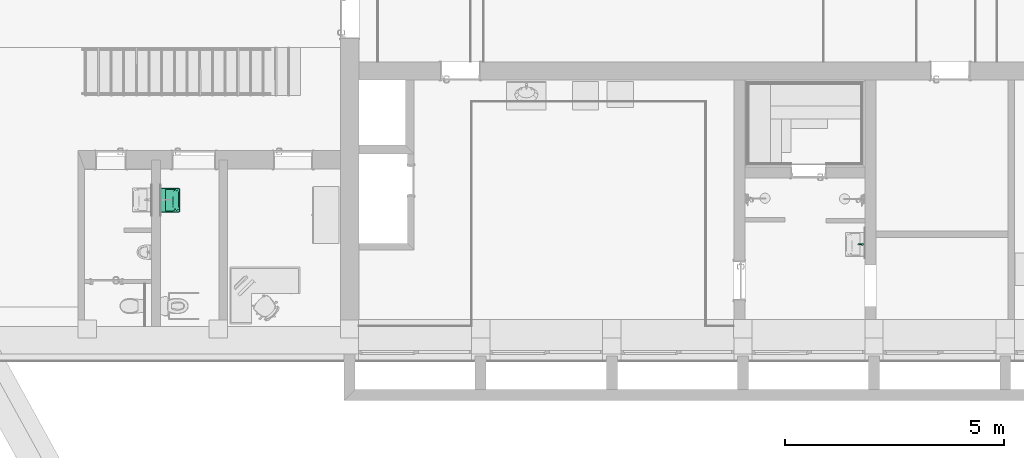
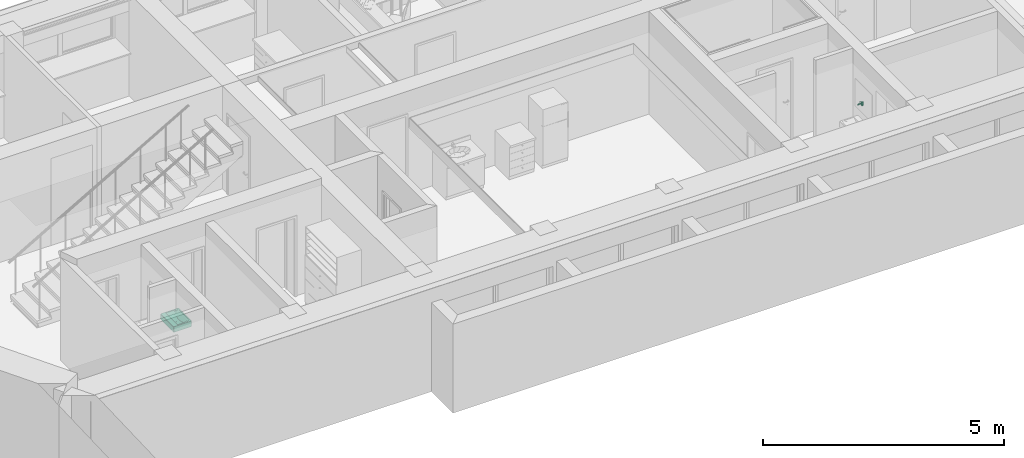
# One storey, part 80 of 127: 2 flow terminals.
"""IFC2X3 building model written with IfcOpenShell, lengths in millimetres."""

from ifc_helpers import new_model, entity, si_unit, converted_unit, derived_unit, money_unit, direction, frame, origin_with_axes, place, context, subcontext, project, spatial, open_shell, faceted_brep, surface_model, source, transform, mapped, type_object, element, save


model = new_model("IFC2X3")

# Units and contexts
model_context = context("Model", 3, precision=1e-05, world=origin_with_axes(), true_north=direction((0.0, 1.0)))
body_context = subcontext(model_context, "Body", "Model", "MODEL_VIEW")
ifc_project = project(units=[si_unit("LENGTHUNIT", "METRE", prefix="MILLI"), si_unit("AREAUNIT", "SQUARE_METRE"), si_unit("VOLUMEUNIT", "CUBIC_METRE"), converted_unit("PLANEANGLEUNIT", "DEGREE", entity("IfcPlaneAngleMeasure", 0.0174532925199), si_unit("PLANEANGLEUNIT", "RADIAN"), dimensions=[0, 0, 0, 0, 0, 0, 0]), si_unit("SOLIDANGLEUNIT", "STERADIAN"), money_unit("EUR"), converted_unit("TIMEUNIT", "Year", entity("IfcTimeMeasure", 31556926.0), si_unit("TIMEUNIT", "SECOND"), dimensions=[0, 0, 1, 0, 0, 0, 0]), si_unit("MASSUNIT", "GRAM", prefix="KILO"), si_unit("THERMODYNAMICTEMPERATUREUNIT", "DEGREE_CELSIUS"), si_unit("LUMINOUSINTENSITYUNIT", "LUMEN"), si_unit("ENERGYUNIT", "JOULE", prefix="MEGA"), derived_unit("THERMALCONDUCTANCEUNIT", [(si_unit("POWERUNIT", "WATT"), 1), (si_unit("LENGTHUNIT", "METRE"), -1), (si_unit("THERMODYNAMICTEMPERATUREUNIT", "KELVIN"), -1)]), derived_unit("SPECIFICHEATCAPACITYUNIT", [(si_unit("ENERGYUNIT", "JOULE"), 1), (si_unit("MASSUNIT", "GRAM", prefix="KILO"), -1), (si_unit("THERMODYNAMICTEMPERATUREUNIT", "KELVIN"), -1)]), derived_unit("MASSDENSITYUNIT", [(si_unit("MASSUNIT", "GRAM", prefix="KILO"), 1), (si_unit("VOLUMEUNIT", "CUBIC_METRE"), -1)])], contexts=[model_context])

# Site, building, storey
site_placement = place(None, origin_with_axes())
site = spatial("IfcSite", under=ifc_project, at=site_placement, Name="Site", CompositionType="ELEMENT")
building_placement = place(site_placement, origin_with_axes())
building = spatial("IfcBuilding", under=site, at=building_placement, Name="Building", CompositionType="ELEMENT")
storey_placement = place(building_placement, origin_with_axes())
storey = spatial("IfcBuildingStorey", under=building, at=storey_placement, Name="1 KORRUS", CompositionType="ELEMENT", Elevation=0.0)

# Flow terminals
sanitary_terminal_type_1 = type_object("IfcSanitaryTerminalType", Name="Tap 22", PredefinedType="NOTDEFINED")
shared_shape_1 = source(origin_with_axes(), body_context, "Body", "Brep", [
    faceted_brep([(12.5, 21.6506350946, 1000.0), (0.0, 25.0, 1000.0), (0.0, 21.2019230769, 1075.96153846), (10.5873227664, 18.3377809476, 1076.50708934), (21.6506350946, 12.5, 1000.0), (25.0, 0.0, 1000.0), (21.6506350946, -12.5, 1000.0), (12.5, -21.6506350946, 1000.0), (0.0, -25.0, 1000.0), (-12.5, -21.6506350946, 1000.0), (-21.6506350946, -12.5, 1000.0), (-25.0, 0.0, 1000.0), (-21.6506350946, 12.5, 1000.0), (-12.5, 21.6506350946, 1000.0), (-10.5873227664, 18.3377809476, 1076.50708934), (-18.2735503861, 10.5502392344, 1077.99043062), (-21.0, 0.0, 1080.0), (-18.1003413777, -10.4502369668, 1081.99052133), (-10.4141059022, -18.037760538, 1083.43576391), (0.0, -20.8018867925, 1083.96226415), (10.4141059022, -18.037760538, 1083.43576391), (18.1003413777, -10.4502369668, 1081.99052133), (21.0, 0.0, 1080.0), (18.2735503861, 10.5502392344, 1077.99043062)], [[[0, 1, 2, 3]], [[0, 4, 5, 6, 7, 8, 9, 10, 11, 12, 13, 1]], [[1, 13, 14, 2]], [[3, 2, 14, 15, 16, 17, 18, 19, 20, 21, 22, 23]], [[4, 0, 3, 23]], [[5, 4, 23, 22]], [[6, 5, 22, 21]], [[7, 6, 21, 20]], [[8, 7, 20, 19]], [[9, 8, 19, 18]], [[10, 9, 18, 17]], [[11, 10, 17, 16]], [[12, 11, 16, 15]], [[13, 12, 15, 14]]]),
    faceted_brep([(9.0, -103.0, 1035.0), (7.79422863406, -98.5, 1035.0), (7.79422863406, -98.5, 1045.0), (9.0, -103.0, 1045.0), (7.79422863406, -107.5, 1035.0), (4.5, -110.794228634, 1035.0), (0.0, -112.0, 1035.0), (-4.5, -110.794228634, 1035.0), (-7.79422863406, -107.5, 1035.0), (-9.0, -103.0, 1035.0), (-7.79422863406, -98.5, 1035.0), (-4.5, -95.2057713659, 1035.0), (0.0, -94.0, 1035.0), (4.5, -95.2057713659, 1035.0), (4.5, -95.2057713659, 1045.0), (0.0, -94.0, 1045.0), (-4.5, -95.2057713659, 1045.0), (-7.79422863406, -98.5, 1045.0), (-9.0, -103.0, 1045.0), (-7.79422863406, -107.5, 1045.0), (-4.5, -110.794228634, 1045.0), (0.0, -112.0, 1045.0), (4.5, -110.794228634, 1045.0), (7.79422863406, -107.5, 1045.0)], [[[0, 1, 2, 3]], [[0, 4, 5, 6, 7, 8, 9, 10, 11, 12, 13, 1]], [[1, 13, 14, 2]], [[3, 2, 14, 15, 16, 17, 18, 19, 20, 21, 22, 23]], [[4, 0, 3, 23]], [[5, 4, 23, 22]], [[6, 5, 22, 21]], [[7, 6, 21, 20]], [[8, 7, 20, 19]], [[9, 8, 19, 18]], [[10, 9, 18, 17]], [[11, 10, 17, 16]], [[12, 11, 16, 15]], [[13, 12, 15, 14]]]),
    faceted_brep([(-12.8717176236, 20.2563038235, 1060.0), (-21.727805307, 10.1932053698, 1060.0), (-23.8054, -3.0499, 1060.0), (-10.911990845, -104.388371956, 1060.0), (-9.02887546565, -109.283194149, 1060.0), (-5.09332449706, -112.749726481, 1060.0), (3.62679860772e-05, -113.99996004, 1060.0), (5.09338878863, -112.749692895, 1060.0), (9.02891689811, -109.283134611, 1060.0), (10.912, -104.3883, 1060.0), (23.8053997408, -3.04990202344, 1060.0), (21.7278061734, 10.193203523, 1060.0), (12.8717193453, 20.2563027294, 1060.0), (1.01998896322e-06, 23.999978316, 1060.0), (11.0, 19.0525588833, 1060.0), (19.0525588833, 11.0, 1060.0), (22.0, 0.0, 1060.0), (19.0525588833, -11.0, 1060.0), (11.0, -19.0525588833, 1060.0), (0.0, -22.0, 1060.0), (-11.0, -19.0525588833, 1060.0), (-19.0525588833, -11.0, 1060.0), (-22.0, 0.0, 1060.0), (-19.0525588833, 11.0, 1060.0), (-11.0, 19.0525588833, 1060.0), (0.0, 22.0, 1060.0), (-21.727805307, 10.1932053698, 1045.0), (-12.8717176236, 20.2563038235, 1045.0), (-23.8054, -3.0499, 1045.0), (-10.911990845, -104.388371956, 1045.0), (-9.02887546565, -109.283194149, 1045.0), (-5.09332449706, -112.749726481, 1045.0), (3.62679860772e-05, -113.99996004, 1045.0), (5.09338878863, -112.749692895, 1045.0), (9.02891689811, -109.283134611, 1045.0), (10.912, -104.3883, 1045.0), (23.8053997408, -3.04990202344, 1045.0), (21.7278061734, 10.193203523, 1045.0), (12.8717193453, 20.2563027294, 1045.0), (1.01998896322e-06, 23.999978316, 1045.0), (11.375, 19.7020779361, 1045.0), (19.7020779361, 11.375, 1045.0), (22.75, 0.0, 1045.0), (19.7020779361, -11.375, 1045.0), (11.375, -19.7020779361, 1045.0), (0.0, -22.75, 1045.0), (-11.375, -19.7020779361, 1045.0), (-19.7020779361, -11.375, 1045.0), (-22.75, 0.0, 1045.0), (-19.7020779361, 11.375, 1045.0), (-11.375, 19.7020779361, 1045.0), (0.0, 22.75, 1045.0)], [[[0, 1, 2, 3, 4, 5, 6, 7, 8, 9, 10, 11, 12, 13], [14, 15, 16, 17, 18, 19, 20, 21, 22, 23, 24, 25]], [[26, 1, 0, 27]], [[28, 2, 1, 26]], [[29, 3, 2, 28]], [[30, 4, 3, 29]], [[31, 5, 4, 30]], [[32, 6, 5, 31]], [[33, 7, 6, 32]], [[34, 8, 7, 33]], [[35, 9, 8, 34]], [[36, 10, 9, 35]], [[37, 11, 10, 36]], [[38, 12, 11, 37]], [[39, 13, 12, 38]], [[27, 0, 13, 39]], [[40, 41, 15, 14]], [[41, 42, 16, 15]], [[42, 43, 17, 16]], [[43, 44, 18, 17]], [[44, 45, 19, 18]], [[20, 19, 45, 46]], [[21, 20, 46, 47]], [[22, 21, 47, 48]], [[23, 22, 48, 49]], [[24, 23, 49, 50]], [[50, 51, 25, 24]], [[51, 40, 14, 25]], [[32, 31, 30, 29, 28, 26, 27, 39, 38, 37, 36, 35, 34, 33], [44, 43, 42, 41, 40, 51, 50, 49, 48, 47, 46, 45]]]),
    faceted_brep([(23.893, -1.69256934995, 1080.32239416), (21.2964214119, 10.774718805, 1077.94767261), (21.2964214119, 11.5231672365, 1081.87702687), (23.893, -0.944120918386, 1084.25174843), (20.9459364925, -41.8367022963, 1087.96889568), (17.6631391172, -51.5143665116, 1089.81226029), (10.0614352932, -58.4637460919, 1091.13595164), (-0.000442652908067, -60.9856119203, 1091.61630703), (-10.0622123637, -58.4633294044, 1091.13587227), (-17.6636179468, -51.5136350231, 1089.81212096), (-20.946, -41.8358348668, 1087.96873045), (-23.893020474, -1.69229042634, 1080.32234103), (-21.2962910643, 10.7749674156, 1077.94762525), (-12.4716815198, 20.0911974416, 1076.17310525), (0.000142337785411, 23.5319645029, 1075.51772105), (12.4719245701, 20.0910518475, 1076.17313298), (14.0, -25.540802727, 1084.86491481), (-14.0, -25.540802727, 1084.86491481), (-14.0, -40.3564329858, 1087.68693962), (-12.124355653, -47.2328029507, 1088.99672437), (-7.0, -52.2666551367, 1089.95555336), (0.0, -54.1091729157, 1090.30650913), (7.0, -52.2666551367, 1089.95555336), (12.124355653, -47.2328029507, 1088.99672437), (14.0, -40.3564329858, 1087.68693962), (12.4719245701, 20.8395002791, 1080.10248725), (0.000142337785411, 24.2804129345, 1079.44707531), (-12.4716815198, 20.8396458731, 1080.10245951), (-21.2962910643, 11.5234158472, 1081.87697952), (-23.893020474, -0.943841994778, 1084.2516953), (-20.946, -41.0873864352, 1091.89808472), (-17.6636179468, -50.7651865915, 1093.74147522), (-10.0622123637, -57.7148809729, 1095.06522653), (-0.000442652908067, -60.2371634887, 1095.5456613), (10.0614352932, -57.7152976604, 1095.0653059), (17.6631391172, -50.7659180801, 1093.74161455), (20.9459364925, -41.0882538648, 1091.89824994), (14.0, -24.7923542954, 1088.79426907), (14.0, -39.6079845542, 1091.61629388), (12.124355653, -46.4843545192, 1092.92607864), (7.0, -51.5182067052, 1093.88490763), (0.0, -53.3607244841, 1094.23586339), (-7.0, -51.5182067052, 1093.88490763), (-12.124355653, -46.4843545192, 1092.92607864), (-14.0, -39.6079845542, 1091.61629388), (-14.0, -24.7923542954, 1088.79426907)], [[[0, 1, 2, 3]], [[0, 4, 5, 6, 7, 8, 9, 10, 11, 12, 13, 14, 15, 1], [16, 17, 18, 19, 20, 21, 22, 23, 24]], [[1, 15, 25, 2]], [[3, 2, 25, 26, 27, 28, 29, 30, 31, 32, 33, 34, 35, 36], [37, 38, 39, 40, 41, 42, 43, 44, 45]], [[4, 0, 3, 36]], [[5, 4, 36, 35]], [[6, 5, 35, 34]], [[7, 6, 34, 33]], [[8, 7, 33, 32]], [[9, 8, 32, 31]], [[10, 9, 31, 30]], [[11, 10, 30, 29]], [[12, 11, 29, 28]], [[13, 12, 28, 27]], [[14, 13, 27, 26]], [[15, 14, 26, 25]], [[17, 16, 37, 45]], [[18, 17, 45, 44]], [[19, 18, 44, 43]], [[20, 19, 43, 42]], [[21, 20, 42, 41]], [[22, 21, 41, 40]], [[23, 22, 40, 39]], [[24, 23, 39, 38]], [[16, 24, 38, 37]]]),
])
flow_terminal_1_placement = place(storey_placement, frame((27677.1940647, 61462.9033953, 472.720072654), z_axis=(0.0, 0.0, 1.0), x_axis=(0.0, -1.0, 0.0)))
element("IfcFlowTerminal", 1, at=flow_terminal_1_placement, inside=storey, type_object=sanitary_terminal_type_1, Name="Valamu", context=body_context, shape_type="MappedRepresentation", body=[
    mapped(shared_shape_1, transform((0.0, 0.0, 0.0))),
])
sanitary_terminal_type_2 = type_object("IfcSanitaryTerminalType", Name="Basin 22", PredefinedType="NOTDEFINED")
shared_shape_2 = source(origin_with_axes(), body_context, "Body", "SurfaceModel", [
    faceted_brep([(-260.0, -440.0, 860.0), (-267.5, -437.990381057, 860.0), (-272.990381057, -432.5, 860.0), (-275.0, -425.0, 860.0), (-275.0, -15.0, 860.0), (-272.990381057, -7.5, 860.0), (-267.5, -2.00961894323, 860.0), (-260.0, 0.0, 860.0), (260.0, 0.0, 860.0), (267.5, -2.00961894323, 860.0), (272.990381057, -7.5, 860.0), (275.0, -15.0, 860.0), (275.0, -425.0, 860.0), (272.990381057, -432.5, 860.0), (267.5, -437.990381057, 860.0), (260.0, -440.0, 860.0), (245.0, -410.0, 860.0), (245.0, -110.0, 860.0), (-245.0, -110.0, 860.0), (-245.0, -410.0, 860.0), (-259.999999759, -440.00000039, 995.0), (-267.500000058, -437.990381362, 995.0), (-272.990381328, -432.500000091, 995.0), (-275.000000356, -424.999999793, 995.0), (-275.000000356, -14.9999996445, 995.0), (-272.990381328, -7.50000027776, 995.0), (-267.500000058, -2.00961900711, 995.0), (-259.999999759, 2.02655670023e-08, 995.0), (259.999999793, 2.02655670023e-08, 995.0), (267.500000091, -2.00961900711, 995.0), (272.990381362, -7.50000027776, 995.0), (275.00000039, -14.9999996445, 995.0), (275.00000039, -424.999999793, 995.0), (272.990381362, -432.500000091, 995.0), (267.500000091, -437.990381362, 995.0), (259.999999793, -440.00000039, 995.0), (245.0, -110.0, 999.999999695), (245.0, -410.0, 999.999999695), (-245.0, -110.0, 999.999999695), (-245.0, -410.0, 999.999999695), (-259.977570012, -439.829629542, 996.294095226), (-267.411809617, -437.837631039, 996.294095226), (-272.837631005, -432.411809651, 996.294095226), (-274.829629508, -424.977570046, 996.294095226), (-274.829629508, -15.0224293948, 996.294095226), (-272.837631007, -7.58819072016, 996.294095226), (-267.411809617, -2.16236933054, 996.294095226), (-259.977570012, -0.170370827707, 996.294095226), (259.977570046, -0.170370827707, 996.294095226), (267.411809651, -2.16236933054, 996.294095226), (272.837631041, -7.58819072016, 996.294095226), (274.829629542, -15.0224293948, 996.294095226), (274.829629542, -424.977570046, 996.294095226), (272.837631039, -432.411809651, 996.294095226), (267.411809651, -437.837631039, 996.294095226), (259.977570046, -439.829629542, 996.294095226), (259.34173768, -4.99999712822, 999.999999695), (-259.341737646, -4.99999712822, 999.999999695), (-264.911811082, -6.49249381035, 999.999999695), (-268.507506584, -10.0881893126, 999.999999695), (-270.000003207, -15.6582618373, 999.999999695), (-270.000003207, -424.34173768, 999.999999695), (-268.507506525, -429.911811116, 999.999999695), (-264.911811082, -433.507506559, 999.999999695), (-259.341737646, -435.000003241, 999.999999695), (259.34173768, -435.000003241, 999.999999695), (264.911811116, -433.507506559, 999.999999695), (268.507506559, -429.911811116, 999.999999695), (270.000003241, -424.34173768, 999.999999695), (270.000003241, -15.6582618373, 999.999999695), (268.507506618, -10.0881893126, 999.999999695), (264.911811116, -6.49249381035, 999.999999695), (-259.807199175, -438.535534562, 998.535533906), (-266.741936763, -436.677377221, 998.535533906), (-271.677377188, -431.741936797, 998.535533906), (-273.535534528, -424.807199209, 998.535533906), (-273.535534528, -15.1928002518, 998.535533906), (-271.677377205, -8.2580635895, 998.535533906), (-266.741936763, -3.32262314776, 998.535533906), (-259.807199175, -1.46446580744, 998.535533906), (259.807199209, -1.46446580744, 998.535533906), (266.741936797, -3.32262314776, 998.535533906), (271.677377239, -8.2580635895, 998.535533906), (273.535534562, -15.1928002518, 998.535533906), (273.535534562, -424.807199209, 998.535533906), (271.677377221, -431.741936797, 998.535533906), (266.741936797, -436.677377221, 998.535533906), (259.807199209, -438.535534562, 998.535533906), (259.512108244, -3.70590421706, 999.829629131), (-259.51210821, -3.70590421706, 999.829629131), (-265.581682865, -5.33224184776, 999.829629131), (-269.667758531, -9.41831751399, 999.829629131), (-271.294096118, -15.4878912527, 999.829629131), (-271.294096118, -424.512108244, 999.829629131), (-269.667758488, -430.581682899, 999.829629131), (-265.581682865, -434.667758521, 999.829629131), (-259.51210821, -436.294096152, 999.829629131), (259.512108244, -436.294096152, 999.829629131), (265.581682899, -434.667758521, 999.829629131), (269.667758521, -430.581682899, 999.829629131), (271.294096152, -424.512108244, 999.829629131), (271.294096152, -15.4878912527, 999.829629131), (269.667758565, -9.41831751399, 999.829629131), (265.581682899, -5.33224184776, 999.829629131)], [[[0, 1, 2, 3, 4, 5, 6, 7, 8, 9, 10, 11, 12, 13, 14, 15], [16, 17, 18, 19]], [[1, 0, 20, 21]], [[2, 1, 21, 22]], [[3, 2, 22, 23]], [[4, 3, 23, 24]], [[5, 4, 24, 25]], [[6, 5, 25, 26]], [[7, 6, 26, 27]], [[8, 7, 27, 28]], [[9, 8, 28, 29]], [[10, 9, 29, 30]], [[11, 10, 30, 31]], [[12, 11, 31, 32]], [[13, 12, 32, 33]], [[14, 13, 33, 34]], [[15, 14, 34, 35]], [[0, 15, 35, 20]], [[36, 17, 16, 37]], [[38, 18, 17, 36]], [[39, 19, 18, 38]], [[37, 16, 19, 39]], [[21, 20, 40, 41]], [[22, 21, 41, 42]], [[23, 22, 42, 43]], [[24, 23, 43, 44]], [[25, 24, 44, 45]], [[26, 25, 45, 46]], [[27, 26, 46, 47]], [[28, 27, 47, 48]], [[29, 28, 48, 49]], [[30, 29, 49, 50]], [[31, 30, 50, 51]], [[32, 31, 51, 52]], [[33, 32, 52, 53]], [[34, 33, 53, 54]], [[35, 34, 54, 55]], [[20, 35, 55, 40]], [[56, 57, 58, 59, 60, 61, 62, 63, 64, 65, 66, 67, 68, 69, 70, 71], [37, 39, 38, 36]], [[41, 40, 72, 73]], [[42, 41, 73, 74]], [[43, 42, 74, 75]], [[44, 43, 75, 76]], [[45, 44, 76, 77]], [[46, 45, 77, 78]], [[47, 46, 78, 79]], [[48, 47, 79, 80]], [[49, 48, 80, 81]], [[50, 49, 81, 82]], [[51, 50, 82, 83]], [[52, 51, 83, 84]], [[53, 52, 84, 85]], [[54, 53, 85, 86]], [[55, 54, 86, 87]], [[40, 55, 87, 72]], [[88, 89, 57, 56]], [[89, 90, 58, 57]], [[90, 91, 59, 58]], [[91, 92, 60, 59]], [[92, 93, 61, 60]], [[93, 94, 62, 61]], [[94, 95, 63, 62]], [[95, 96, 64, 63]], [[96, 97, 65, 64]], [[97, 98, 66, 65]], [[98, 99, 67, 66]], [[99, 100, 68, 67]], [[100, 101, 69, 68]], [[101, 102, 70, 69]], [[102, 103, 71, 70]], [[103, 88, 56, 71]], [[73, 72, 96, 95]], [[74, 73, 95, 94]], [[75, 74, 94, 93]], [[76, 75, 93, 92]], [[77, 76, 92, 91]], [[78, 77, 91, 90]], [[79, 78, 90, 89]], [[80, 79, 89, 88]], [[81, 80, 88, 103]], [[82, 81, 103, 102]], [[83, 82, 102, 101]], [[84, 83, 101, 100]], [[85, 84, 100, 99]], [[86, 85, 99, 98]], [[87, 86, 98, 97]], [[72, 87, 97, 96]]]),
    faceted_brep([(245.0, -410.0, 860.0), (-245.0, -410.0, 860.0), (-245.0, -110.0, 860.0), (245.0, -110.0, 860.0), (-12.5, -221.641635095, 860.0), (0.0, -224.991, 860.0), (12.5, -221.641635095, 860.0), (21.6506350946, -212.491, 860.0), (25.0, -199.991, 860.0), (21.6506350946, -187.491, 860.0), (12.5, -178.340364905, 860.0), (0.0, -174.991, 860.0), (-12.5, -178.340364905, 860.0), (-21.6506350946, -187.491, 860.0), (-25.0, -199.991, 860.0), (-21.6506350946, -212.491, 860.0), (122.5, -410.0, 1000.0), (81.6666666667, -410.0, 1000.0), (40.8333333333, -410.0, 1000.0), (0.0, -410.0, 1000.0), (-40.8333333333, -410.0, 1000.0), (-81.6666666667, -410.0, 1000.0), (-122.5, -410.0, 1000.0), (-163.333333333, -410.0, 1000.0), (-204.166666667, -410.0, 1000.0), (-245.0, -410.0, 1000.0), (245.0, -410.0, 1000.0), (204.166666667, -410.0, 1000.0), (163.333333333, -410.0, 1000.0), (-245.0, -230.0, 1000.0), (-245.0, -170.0, 1000.0), (-245.0, -110.0, 1000.0), (-245.0, -350.0, 1000.0), (-245.0, -290.0, 1000.0), (-122.5, -110.0, 922.129168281), (-81.6666666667, -110.0, 909.657569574), (-40.8333333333, -110.0, 902.389246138), (0.0, -110.0, 900.0), (40.8333333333, -110.0, 902.389246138), (81.6666666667, -110.0, 909.657569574), (122.5, -110.0, 922.129168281), (163.333333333, -110.0, 940.432026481), (204.166666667, -110.0, 965.689615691), (245.0, -110.0, 1000.0), (-204.166666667, -110.0, 965.689615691), (-163.333333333, -110.0, 940.432026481), (245.0, -290.0, 1000.0), (245.0, -350.0, 1000.0), (245.0, -170.0, 1000.0), (245.0, -230.0, 1000.0), (0.0, -224.991, 900.0), (-12.5, -221.641635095, 900.731401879), (12.5, -221.641635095, 900.731401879), (21.6506350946, -212.491, 901.266825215), (25.0, -199.991, 901.462803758), (21.6506350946, -187.491, 901.266825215), (12.5, -178.340364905, 900.731401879), (0.0, -174.991, 900.0), (-12.5, -178.340364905, 900.731401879), (-21.6506350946, -187.491, 901.266825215), (-25.0, -199.991, 901.462803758), (-21.6506350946, -212.491, 901.266825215), (81.6666666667, -350.0, 960.520155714), (40.8333333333, -350.0, 956.933224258), (0.0, -350.0, 955.741663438), (-40.8333333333, -350.0, 956.933224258), (-81.6666666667, -350.0, 960.520155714), (-122.5, -350.0, 966.539843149), (-163.333333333, -350.0, 975.056802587), (-204.166666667, -350.0, 986.166287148), (204.166666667, -350.0, 986.166287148), (163.333333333, -350.0, 975.056802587), (122.5, -350.0, 966.539843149), (-204.166666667, -230.0, 965.689615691), (-204.166666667, -170.0, 965.689615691), (-204.166666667, -290.0, 970.594758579), (-122.5, -170.0, 922.129168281), (-81.6666666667, -170.0, 909.657569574), (-40.8333333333, -170.0, 902.389246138), (0.0, -170.0, 900.0), (40.8333333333, -170.0, 902.389246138), (81.6666666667, -170.0, 909.657569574), (122.5, -170.0, 922.129168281), (163.333333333, -170.0, 940.432026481), (204.166666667, -170.0, 965.689615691), (-163.333333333, -170.0, 940.432026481), (204.166666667, -290.0, 970.594758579), (204.166666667, -230.0, 965.689615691), (-40.8333333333, -230.0, 902.389246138), (0.0, -230.0, 900.0), (40.8333333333, -230.0, 902.389246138), (-163.333333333, -230.0, 940.432026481), (-122.5, -230.0, 922.129168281), (-81.6666666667, -230.0, 909.657569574), (81.6666666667, -230.0, 909.657569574), (122.5, -230.0, 922.129168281), (163.333333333, -230.0, 940.432026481), (0.0, -290.0, 912.025576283), (40.8333333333, -290.0, 914.19632473), (81.6666666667, -290.0, 920.783680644), (-40.8333333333, -290.0, 914.19632473), (-81.6666666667, -290.0, 920.783680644), (-122.5, -290.0, 932.026603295), (-163.333333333, -290.0, 948.375008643), (163.333333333, -290.0, 948.375008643), (122.5, -290.0, 932.026603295)], [[[0, 1, 2, 3], [4, 5, 6, 7, 8, 9, 10, 11, 12, 13, 14, 15]], [[16, 17, 18, 19, 20, 21, 22, 23, 24, 25, 1, 0, 26, 27, 28]], [[29, 30, 31, 2, 1, 25, 32, 33]], [[34, 35, 36, 37, 38, 39, 40, 41, 42, 43, 3, 2, 31, 44, 45]], [[46, 47, 26, 0, 3, 43, 48, 49]], [[50, 5, 4, 51]], [[52, 6, 5, 50]], [[53, 7, 6, 52]], [[54, 8, 7, 53]], [[55, 9, 8, 54]], [[56, 10, 9, 55]], [[57, 11, 10, 56]], [[58, 12, 11, 57]], [[59, 13, 12, 58]], [[60, 14, 13, 59]], [[61, 15, 14, 60]], [[51, 4, 15, 61]], [[16, 62, 17]], [[17, 63, 18]], [[18, 64, 19]], [[19, 65, 20]], [[20, 66, 21]], [[21, 67, 22]], [[22, 68, 23]], [[23, 69, 24]], [[24, 32, 25]], [[26, 70, 27]], [[27, 71, 28]], [[28, 72, 16]], [[29, 73, 74, 30]], [[30, 74, 44, 31]], [[69, 33, 32]], [[75, 29, 33]], [[76, 77, 35, 34]], [[77, 78, 36, 35]], [[78, 79, 37, 36]], [[79, 80, 38, 37]], [[80, 81, 39, 38]], [[81, 82, 40, 39]], [[82, 83, 41, 40]], [[83, 84, 42, 41]], [[84, 48, 43, 42]], [[74, 85, 45, 44]], [[85, 76, 34, 45]], [[47, 46, 86]], [[26, 47, 70]], [[87, 49, 48, 84]], [[46, 49, 87]], [[58, 57, 79, 78, 88, 89, 50, 51, 61, 60, 59]], [[56, 55, 54, 53, 52, 50, 89, 90, 80, 79, 57]], [[16, 72, 62]], [[17, 62, 63]], [[18, 63, 64]], [[19, 64, 65]], [[20, 65, 66]], [[21, 66, 67]], [[22, 67, 68]], [[23, 68, 69]], [[24, 69, 32]], [[27, 70, 71]], [[28, 71, 72]], [[75, 73, 29]], [[73, 91, 85, 74]], [[69, 75, 33]], [[92, 93, 77, 76]], [[93, 88, 78, 77]], [[90, 94, 81, 80]], [[94, 95, 82, 81]], [[95, 96, 83, 82]], [[96, 87, 84, 83]], [[91, 92, 76, 85]], [[46, 87, 86]], [[47, 86, 70]], [[97, 89, 88]], [[98, 90, 89]], [[72, 99, 62]], [[62, 98, 63]], [[63, 97, 64]], [[64, 100, 65]], [[65, 101, 66]], [[66, 102, 67]], [[67, 103, 68]], [[68, 75, 69]], [[70, 104, 71]], [[71, 105, 72]], [[103, 73, 75]], [[103, 91, 73]], [[101, 93, 92]], [[100, 88, 93]], [[99, 94, 90]], [[105, 95, 94]], [[104, 96, 95]], [[86, 87, 96]], [[102, 92, 91]], [[70, 86, 104]], [[98, 89, 97]], [[97, 88, 100]], [[99, 90, 98]], [[72, 105, 99]], [[62, 99, 98]], [[63, 98, 97]], [[64, 97, 100]], [[65, 100, 101]], [[66, 101, 102]], [[67, 102, 103]], [[68, 103, 75]], [[71, 104, 105]], [[102, 91, 103]], [[100, 93, 101]], [[101, 92, 102]], [[105, 94, 99]], [[104, 95, 105]], [[86, 96, 104]]]),
    faceted_brep([(-21.6506350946, -212.491, 900.0), (-25.0, -199.991, 900.0), (-21.6506350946, -187.491, 900.0), (-12.5, -178.340364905, 900.0), (0.0, -174.991, 900.0), (12.5, -178.340364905, 900.0), (21.6506350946, -187.491, 900.0), (25.0, -199.991, 900.0), (21.6506350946, -212.491, 900.0), (12.5, -221.641635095, 900.0), (0.0, -224.991, 900.0), (-12.5, -221.641635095, 900.0), (-21.6506350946, -212.491, 905.0), (-25.0, -199.991, 905.0), (-21.6506350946, -187.491, 905.0), (-12.5, -178.340364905, 905.0), (0.0, -174.991, 905.0), (12.5, -178.340364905, 905.0), (21.6506350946, -187.491, 905.0), (25.0, -199.991, 905.0), (21.6506350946, -212.491, 905.0), (12.5, -221.641635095, 905.0), (0.0, -224.991, 905.0), (-12.5, -221.641635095, 905.0)], [[[0, 1, 2, 3, 4, 5, 6, 7, 8, 9, 10, 11]], [[0, 12, 13, 1]], [[1, 13, 14, 2]], [[2, 14, 15, 3]], [[3, 15, 16, 4]], [[4, 16, 17, 5]], [[5, 17, 18, 6]], [[6, 18, 19, 7]], [[7, 19, 20, 8]], [[8, 20, 21, 9]], [[9, 21, 22, 10]], [[10, 22, 23, 11]], [[11, 23, 12, 0]], [[12, 23, 22, 21, 20, 19, 18, 17, 16, 15, 14, 13]]]),
    surface_model("IfcShellBasedSurfaceModel", [(0.0, -199.991, 907.0), (6.31095278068, -189.06010914, 906.49757372), (0.0, -187.369094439, 906.49757372), (10.9308908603, -193.680047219, 906.49757372), (12.5, -178.340364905, 905.0), (0.0, -174.991, 905.0), (-6.31095278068, -189.06010914, 906.49757372), (12.6219055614, -199.991, 906.49757372), (21.6506350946, -187.491, 905.0), (-12.5, -178.340364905, 905.0), (-10.9308908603, -193.680047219, 906.49757372), (10.9308908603, -206.301952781, 906.49757372), (25.0, -199.991, 905.0), (-21.6506350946, -187.491, 905.0), (-12.6219055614, -199.991, 906.49757372), (6.31095278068, -210.92189086, 906.49757372), (21.6506350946, -212.491, 905.0), (-25.0, -199.991, 905.0), (-10.9308908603, -206.301952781, 906.49757372), (0.0, -212.612905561, 906.49757372), (12.5, -221.641635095, 905.0), (-21.6506350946, -212.491, 905.0), (-6.31095278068, -210.92189086, 906.49757372), (0.0, -224.991, 905.0), (-12.5, -221.641635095, 905.0)], [open_shell([[[0, 1, 2]], [[0, 3, 1]], [[1, 4, 5, 2]], [[0, 2, 6]], [[0, 7, 3]], [[3, 8, 4, 1]], [[2, 5, 9, 6]], [[0, 6, 10]], [[0, 11, 7]], [[7, 12, 8, 3]], [[6, 9, 13, 10]], [[0, 10, 14]], [[0, 15, 11]], [[11, 16, 12, 7]], [[10, 13, 17, 14]], [[0, 14, 18]], [[0, 19, 15]], [[15, 20, 16, 11]], [[14, 17, 21, 18]], [[0, 18, 22]], [[0, 22, 19]], [[19, 23, 20, 15]], [[18, 21, 24, 22]], [[22, 24, 23, 19]]])]),
])
flow_terminal_2_placement = place(storey_placement, frame((11622.7714171, 62470.0394391, 40.0), z_axis=(0.0, 0.0, 1.0), x_axis=(0.0, 1.0, 0.0)))
element("IfcFlowTerminal", 2, at=flow_terminal_2_placement, inside=storey, type_object=sanitary_terminal_type_2, Name="Valamu", context=body_context, shape_type="MappedRepresentation", body=[
    mapped(shared_shape_2, transform((0.0, 0.0, 0.0))),
])

save(model, "model.ifc")
